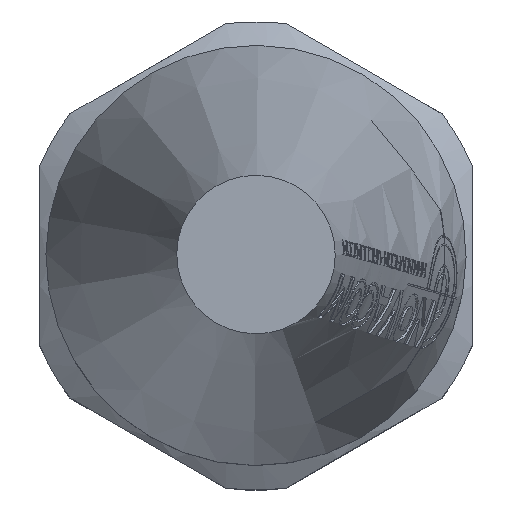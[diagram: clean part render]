
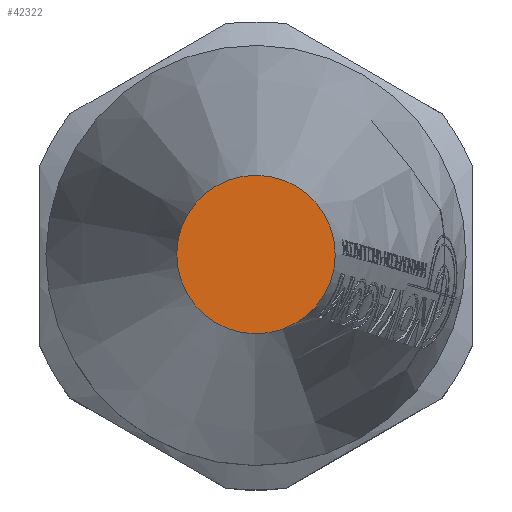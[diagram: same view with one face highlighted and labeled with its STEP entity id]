
A CAD part, top view. The second image highlights one B-rep face of the part: STEP entity #42322.
In plain terms, the highlighted planar face has unit normal (0, 0, 1).
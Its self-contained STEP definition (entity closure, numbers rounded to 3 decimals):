
#1017 = CARTESIAN_POINT ( 'NONE',  ( 0., 0., 16.4 ) ) ;
#2117 = AXIS2_PLACEMENT_3D ( 'NONE', #1017, #39728, #42592 ) ;
#2298 = PLANE ( 'NONE',  #6409 ) ;
#6409 = AXIS2_PLACEMENT_3D ( 'NONE', #30578, #12983, #21801 ) ;
#11131 = EDGE_CURVE ( 'NONE', #28805, #28805, #13261, .T. ) ;
#12983 = DIRECTION ( 'NONE',  ( 0., 0., 1. ) ) ;
#13261 = CIRCLE ( 'NONE', #2117, 3.3 ) ;
#20444 = FACE_OUTER_BOUND ( 'NONE', #40553, .T. ) ;
#21801 = DIRECTION ( 'NONE',  ( 1., 0., 0. ) ) ;
#28805 = VERTEX_POINT ( 'NONE', #42978 ) ;
#30578 = CARTESIAN_POINT ( 'NONE',  ( 3.05, 0., 16.4 ) ) ;
#39728 = DIRECTION ( 'NONE',  ( 0., 0., 1. ) ) ;
#40553 = EDGE_LOOP ( 'NONE', ( #45303 ) ) ;
#42322 = ADVANCED_FACE ( 'NONE', ( #20444 ), #2298, .T. ) ;
#42592 = DIRECTION ( 'NONE',  ( -0.983, 0.183, 0. ) ) ;
#42978 = CARTESIAN_POINT ( 'NONE',  ( -3.245, 0.603, 16.4 ) ) ;
#45303 = ORIENTED_EDGE ( 'NONE', *, *, #11131, .T. ) ;
